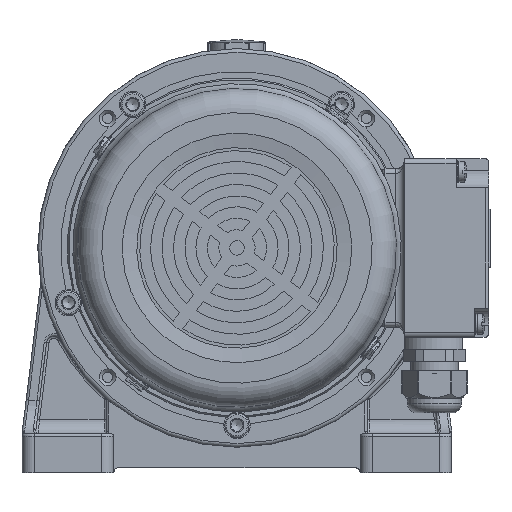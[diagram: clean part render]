
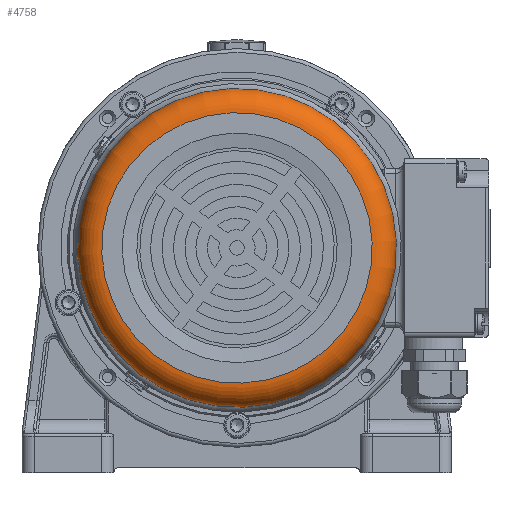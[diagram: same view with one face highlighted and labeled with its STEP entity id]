
A CAD part, left-side view. The second image highlights one B-rep face of the part: STEP entity #4758.
In plain terms, the highlighted toroidal (fillet/blend) face has major radius 56 mm and minor radius 10 mm.
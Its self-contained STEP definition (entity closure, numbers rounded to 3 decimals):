
#550=TOROIDAL_SURFACE('',#37382,56.,10.);
#4758=ADVANCED_FACE('',(#12413,#12414),#550,.T.);
#12413=FACE_BOUND('',#13274,.T.);
#12414=FACE_BOUND('',#13275,.T.);
#13274=EDGE_LOOP('',(#17055));
#13275=EDGE_LOOP('',(#17056));
#17055=ORIENTED_EDGE('',*,*,#30495,.F.);
#17056=ORIENTED_EDGE('',*,*,#30493,.T.);
#26863=VERTEX_POINT('',#54082);
#26865=VERTEX_POINT('',#54087);
#30493=EDGE_CURVE('',#26863,#26863,#35177,.T.);
#30495=EDGE_CURVE('',#26865,#26865,#35179,.T.);
#35177=CIRCLE('',#37378,66.);
#35179=CIRCLE('',#37381,56.);
#37378=AXIS2_PLACEMENT_3D('',#54081,#42608,#42609);
#37381=AXIS2_PLACEMENT_3D('',#54086,#42614,#42615);
#37382=AXIS2_PLACEMENT_3D('',#54088,#42616,#42617);
#42608=DIRECTION('',(-1.,0.,0.));
#42609=DIRECTION('',(0.,-0.609,0.793));
#42614=DIRECTION('',(-1.,0.,0.));
#42615=DIRECTION('',(0.,-0.609,0.793));
#42616=DIRECTION('',(-1.,0.,0.));
#42617=DIRECTION('',(0.,-0.609,0.793));
#54081=CARTESIAN_POINT('',(-210.,0.,0.));
#54082=CARTESIAN_POINT('',(-210.,-40.178,52.361));
#54086=CARTESIAN_POINT('',(-220.,0.,0.));
#54087=CARTESIAN_POINT('',(-220.,-34.091,44.428));
#54088=CARTESIAN_POINT('',(-210.,0.,0.));
